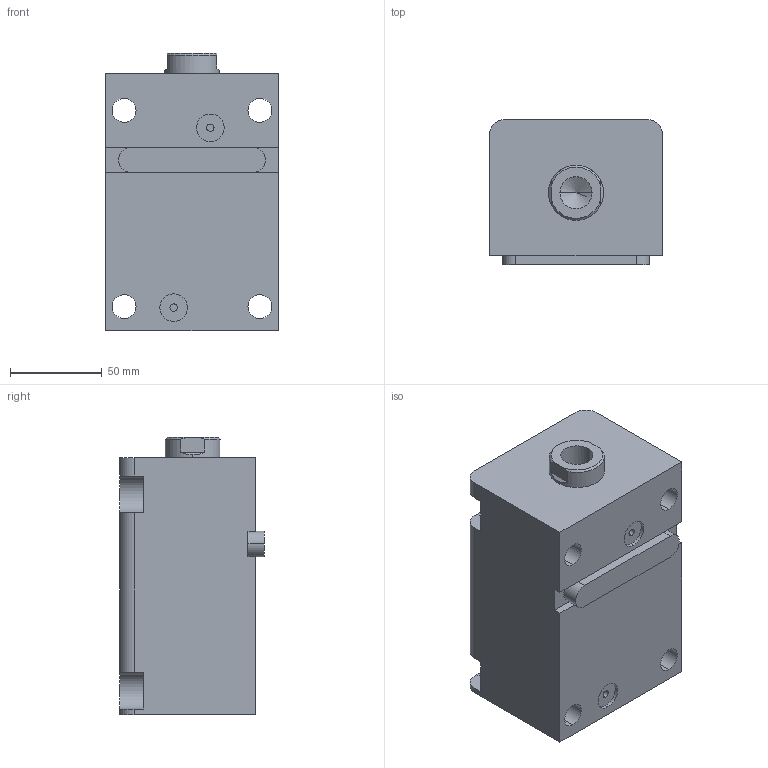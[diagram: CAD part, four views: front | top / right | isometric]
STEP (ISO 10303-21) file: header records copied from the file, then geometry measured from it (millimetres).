
FILE_DESCRIPTION (( 'STEP AP203' ), '1' );
FILE_NAME ('HTB-LAM50-80N.STEP', '2023-03-20T01:10:44', ( '微软用户' ), ( '微软中国' ), 'SwSTEP 2.0', 'SolidWorks 2012', '' );
FILE_SCHEMA (( 'CONFIG_CONTROL_DESIGN' ));
Length unit declared in the file: millimetre
Products named in the file (4): HTB-LAM50-80N; HTB-LWM50-瑩; HTB-LAM50-80N活塞杆; HTB-LAM50-80掛极
Assembly tree (3 placements, depth 2):
  HTB-LAM50-80N
    HTB-LAM50-80掛极
    HTB-LAM50-80N活塞杆
    HTB-LWM50-瑩
Bounding box: 94 x 79 x 151 mm (x, y, z)
Volume: 824033.1 mm3; surface area: 116268.4 mm2
Topology: 3 solids, 3 shells, 86 faces, 213 edges, 139 vertices
Faces by surface type: cylinder 39, plane 39, torus 4, cone 4
Entity records: 3001 total; most frequent: DIRECTION 475, CARTESIAN_POINT 470, ORIENTED_EDGE 422, EDGE_CURVE 211, AXIS2_PLACEMENT_3D 180, VERTEX_POINT 139, VECTOR 115, LINE 115
